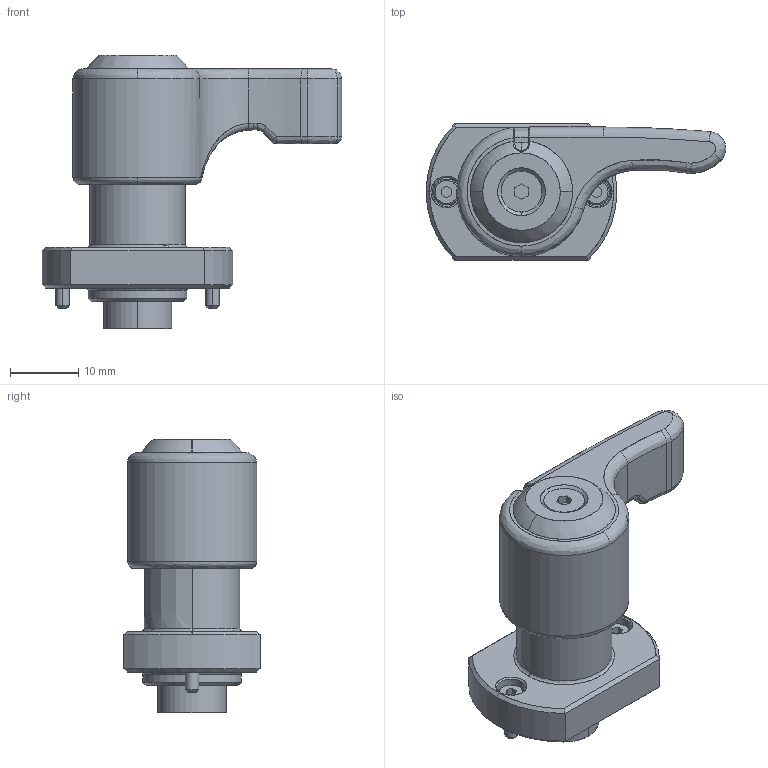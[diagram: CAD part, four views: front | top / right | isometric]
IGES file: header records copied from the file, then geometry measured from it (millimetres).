
Start section: SolidWorks IGES file using analytic representation for surfaces
Global section: file name: Y:\5.更新分\2023年対応\0405_諸々微修正分\QCPS0828-6-S-D\qcps0828-6-s-d.IGS; native system: SolidWorks 2021; preprocessor: SolidWorks 2021; author: ImaoCorp; date: 230407.105535; units: millimetre
Bounding box: 44 x 20 x 40.21 mm (x, y, z)
Surface area: 7578.9 mm2 (no closed solid volume)
Topology: 0 solids, 0 shells, 362 faces, 3855 edges, 3848 vertices
Faces by surface type: bspline 207, revolution 155
